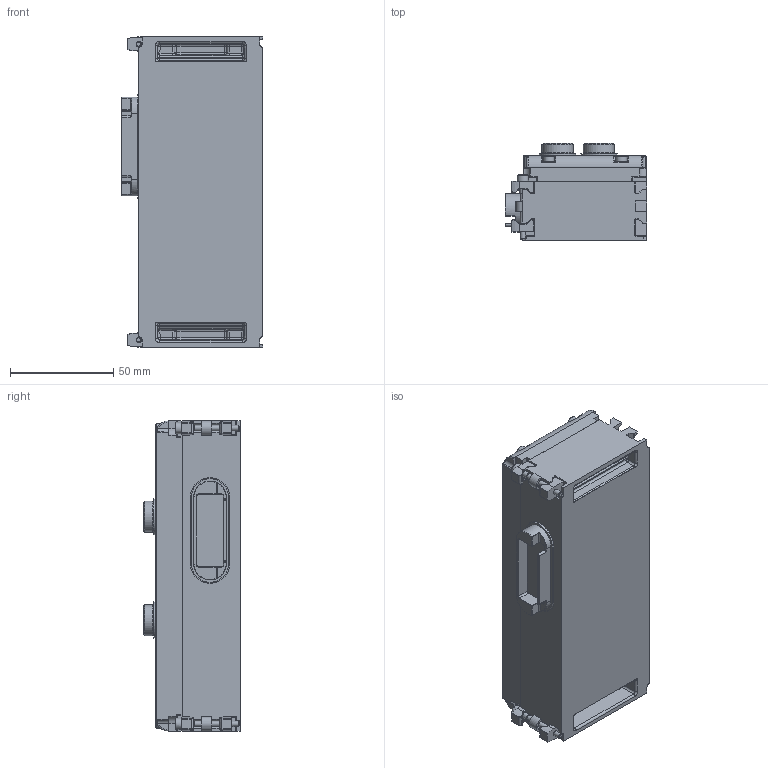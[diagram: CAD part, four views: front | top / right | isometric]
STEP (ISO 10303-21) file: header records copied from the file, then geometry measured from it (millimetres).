
FILE_DESCRIPTION (( 'STEP AP214' ), '1' );
FILE_NAME ('MIO67A-AN-xx-01.STEP', '2019-07-10T14:18:43', ( 'user' ), ( '' ), 'SwSTEP 2.0', 'SolidWorks 2014', '' );
FILE_SCHEMA (( 'AUTOMOTIVE_DESIGN' ));
Length unit declared in the file: millimetre
Products named in the file (1): MIO67A-AN-xx-01
Bounding box: 68.6 x 46.83 x 150 mm (x, y, z)
Volume: 342916.1 mm3; surface area: 74292.2 mm2
Topology: 27 solids, 27 shells, 1397 faces, 3817 edges, 2661 vertices
Faces by surface type: plane 580, cylinder 400, cone 152, torus 126, bspline 111, sphere 28
Full cylindrical faces by diameter (mm): 2.4 x10, 2.6 x4, 3 x2, 3.325 x10, 3.5 x10, 4.65 x4, 4.7 x2, 5.5 x8, 11.035 x4, 12.2 x4, 14.3 x4, 14.5 x4, 15.1 x4, 17.5 x4
Entity records: 63649 total; most frequent: CARTESIAN_POINT 14996, ORIENTED_EDGE 6838, DIRECTION 6401, EDGE_CURVE 3419, VERTEX_POINT 2544, AXIS2_PLACEMENT_3D 2365, EDGE_LOOP 1889, LINE 1671
